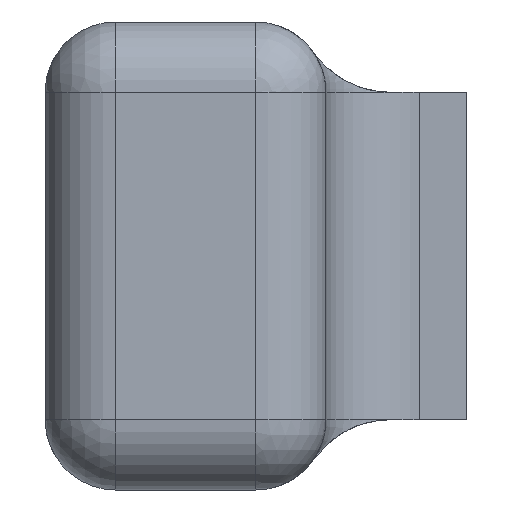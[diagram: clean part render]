
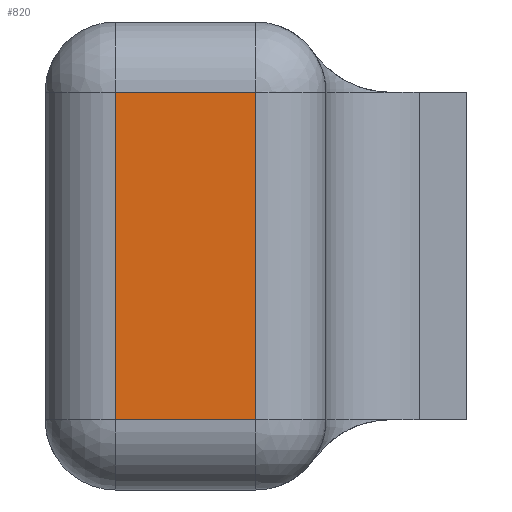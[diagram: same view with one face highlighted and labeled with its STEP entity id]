
A CAD part, left-side view. The second image highlights one B-rep face of the part: STEP entity #820.
In plain terms, the highlighted planar face has unit normal (-1, 0, 0).
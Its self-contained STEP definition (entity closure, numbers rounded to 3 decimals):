
#26 = CARTESIAN_POINT ( 'NONE',  ( -25., 1.5, 3.5 ) ) ;
#36 = VECTOR ( 'NONE', #527, 1000. ) ;
#56 = EDGE_CURVE ( 'NONE', #125, #275, #321, .T. ) ;
#97 = EDGE_CURVE ( 'NONE', #802, #254, #626, .T. ) ;
#123 = CARTESIAN_POINT ( 'NONE',  ( -25., 4.5, 3.5 ) ) ;
#125 = VERTEX_POINT ( 'NONE', #123 ) ;
#130 = DIRECTION ( 'NONE',  ( 0., -1., 0. ) ) ;
#145 = ORIENTED_EDGE ( 'NONE', *, *, #97, .T. ) ;
#211 = AXIS2_PLACEMENT_3D ( 'NONE', #369, #1123, #1217 ) ;
#254 = VERTEX_POINT ( 'NONE', #26 ) ;
#275 = VERTEX_POINT ( 'NONE', #1181 ) ;
#300 = EDGE_LOOP ( 'NONE', ( #619, #1319, #505, #145 ) ) ;
#321 = LINE ( 'NONE', #1150, #956 ) ;
#354 = VECTOR ( 'NONE', #130, 1000. ) ;
#369 = CARTESIAN_POINT ( 'NONE',  ( -25., 6., -5. ) ) ;
#467 = FACE_OUTER_BOUND ( 'NONE', #300, .T. ) ;
#496 = PLANE ( 'NONE',  #211 ) ;
#505 = ORIENTED_EDGE ( 'NONE', *, *, #1260, .T. ) ;
#527 = DIRECTION ( 'NONE',  ( 0., 1., 0. ) ) ;
#609 = CARTESIAN_POINT ( 'NONE',  ( -25., 6., 3.5 ) ) ;
#619 = ORIENTED_EDGE ( 'NONE', *, *, #918, .T. ) ;
#626 = LINE ( 'NONE', #1073, #910 ) ;
#633 = LINE ( 'NONE', #1286, #354 ) ;
#802 = VERTEX_POINT ( 'NONE', #1130 ) ;
#820 = ADVANCED_FACE ( 'NONE', ( #467 ), #496, .F. ) ;
#910 = VECTOR ( 'NONE', #1058, 1000. ) ;
#918 = EDGE_CURVE ( 'NONE', #254, #125, #1143, .T. ) ;
#956 = VECTOR ( 'NONE', #1175, 1000. ) ;
#1058 = DIRECTION ( 'NONE',  ( 0., 0., 1. ) ) ;
#1073 = CARTESIAN_POINT ( 'NONE',  ( -25., 1.5, -5. ) ) ;
#1123 = DIRECTION ( 'NONE',  ( 1., 0., 0. ) ) ;
#1130 = CARTESIAN_POINT ( 'NONE',  ( -25., 1.5, -3.5 ) ) ;
#1143 = LINE ( 'NONE', #609, #36 ) ;
#1150 = CARTESIAN_POINT ( 'NONE',  ( -25., 4.5, -5. ) ) ;
#1175 = DIRECTION ( 'NONE',  ( 0., 0., -1. ) ) ;
#1181 = CARTESIAN_POINT ( 'NONE',  ( -25., 4.5, -3.5 ) ) ;
#1217 = DIRECTION ( 'NONE',  ( 0., 0., -1. ) ) ;
#1260 = EDGE_CURVE ( 'NONE', #275, #802, #633, .T. ) ;
#1286 = CARTESIAN_POINT ( 'NONE',  ( -25., 6., -3.5 ) ) ;
#1319 = ORIENTED_EDGE ( 'NONE', *, *, #56, .T. ) ;
